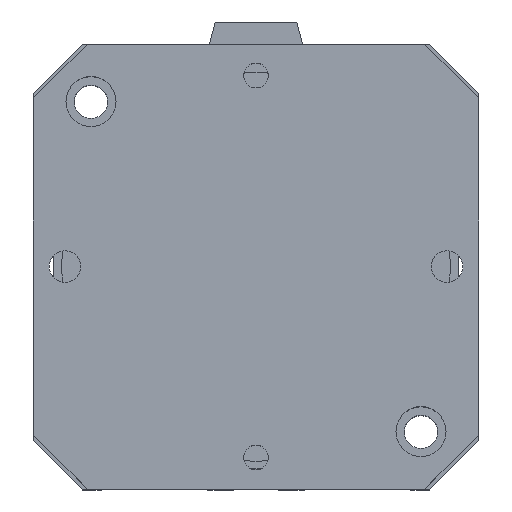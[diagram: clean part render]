
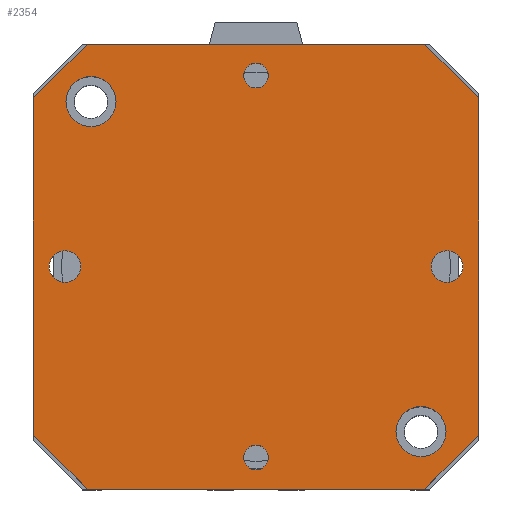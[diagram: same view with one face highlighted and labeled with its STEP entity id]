
A CAD part, top view. The second image highlights one B-rep face of the part: STEP entity #2354.
In plain terms, the highlighted planar face has unit normal (0, 0, 1).
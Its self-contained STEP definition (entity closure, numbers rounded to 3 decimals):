
#221=LINE('',#3869,#429);
#223=LINE('',#3873,#431);
#225=LINE('',#3877,#433);
#227=LINE('',#3881,#435);
#229=LINE('',#3885,#437);
#231=LINE('',#3889,#439);
#233=LINE('',#3893,#441);
#235=LINE('',#3896,#443);
#429=VECTOR('',#3196,91.);
#431=VECTOR('',#3200,20.506);
#433=VECTOR('',#3204,91.);
#435=VECTOR('',#3208,20.506);
#437=VECTOR('',#3212,91.);
#439=VECTOR('',#3216,20.506);
#441=VECTOR('',#3220,91.);
#443=VECTOR('',#3224,20.506);
#537=PLANE('',#2580);
#626=FACE_BOUND('',#956,.T.);
#627=FACE_BOUND('',#957,.T.);
#628=FACE_BOUND('',#958,.T.);
#629=FACE_BOUND('',#959,.T.);
#630=FACE_BOUND('',#960,.T.);
#631=FACE_BOUND('',#961,.T.);
#632=FACE_BOUND('',#962,.T.);
#956=EDGE_LOOP('',(#2134));
#957=EDGE_LOOP('',(#2135));
#958=EDGE_LOOP('',(#2136));
#959=EDGE_LOOP('',(#2137));
#960=EDGE_LOOP('',(#2138));
#961=EDGE_LOOP('',(#2139));
#962=EDGE_LOOP('',(#2140,#2141,#2142,#2143,#2144,#2145,#2146,#2147));
#1035=CIRCLE('',#2536,3.324);
#1037=CIRCLE('',#2539,3.324);
#1042=CIRCLE('',#2547,4.25);
#1046=CIRCLE('',#2554,4.25);
#1055=CIRCLE('',#2569,6.75);
#1056=CIRCLE('',#2571,6.75);
#1235=VERTEX_POINT('',#3787);
#1237=VERTEX_POINT('',#3792);
#1242=VERTEX_POINT('',#3805);
#1246=VERTEX_POINT('',#3816);
#1265=VERTEX_POINT('',#3860);
#1266=VERTEX_POINT('',#3863);
#1267=VERTEX_POINT('',#3866);
#1268=VERTEX_POINT('',#3868);
#1269=VERTEX_POINT('',#3872);
#1270=VERTEX_POINT('',#3876);
#1271=VERTEX_POINT('',#3880);
#1272=VERTEX_POINT('',#3884);
#1273=VERTEX_POINT('',#3888);
#1274=VERTEX_POINT('',#3892);
#1521=EDGE_CURVE('',#1235,#1235,#1035,.T.);
#1523=EDGE_CURVE('',#1237,#1237,#1037,.T.);
#1528=EDGE_CURVE('',#1242,#1242,#1042,.T.);
#1532=EDGE_CURVE('',#1246,#1246,#1046,.T.);
#1551=EDGE_CURVE('',#1265,#1265,#1055,.T.);
#1552=EDGE_CURVE('',#1266,#1266,#1056,.T.);
#1554=EDGE_CURVE('',#1268,#1267,#221,.T.);
#1556=EDGE_CURVE('',#1269,#1268,#223,.T.);
#1558=EDGE_CURVE('',#1270,#1269,#225,.T.);
#1560=EDGE_CURVE('',#1271,#1270,#227,.T.);
#1562=EDGE_CURVE('',#1272,#1271,#229,.T.);
#1564=EDGE_CURVE('',#1273,#1272,#231,.T.);
#1566=EDGE_CURVE('',#1274,#1273,#233,.T.);
#1568=EDGE_CURVE('',#1267,#1274,#235,.T.);
#2134=ORIENTED_EDGE('',*,*,#1521,.T.);
#2135=ORIENTED_EDGE('',*,*,#1523,.T.);
#2136=ORIENTED_EDGE('',*,*,#1528,.T.);
#2137=ORIENTED_EDGE('',*,*,#1532,.T.);
#2138=ORIENTED_EDGE('',*,*,#1551,.T.);
#2139=ORIENTED_EDGE('',*,*,#1552,.T.);
#2140=ORIENTED_EDGE('',*,*,#1568,.T.);
#2141=ORIENTED_EDGE('',*,*,#1566,.T.);
#2142=ORIENTED_EDGE('',*,*,#1564,.T.);
#2143=ORIENTED_EDGE('',*,*,#1562,.T.);
#2144=ORIENTED_EDGE('',*,*,#1560,.T.);
#2145=ORIENTED_EDGE('',*,*,#1558,.T.);
#2146=ORIENTED_EDGE('',*,*,#1556,.T.);
#2147=ORIENTED_EDGE('',*,*,#1554,.T.);
#2354=ADVANCED_FACE('',(#626,#627,#628,#629,#630,#631,#632),#537,.T.);
#2536=AXIS2_PLACEMENT_3D('',#3788,#3111,#3112);
#2539=AXIS2_PLACEMENT_3D('',#3793,#3117,#3118);
#2547=AXIS2_PLACEMENT_3D('',#3806,#3133,#3134);
#2554=AXIS2_PLACEMENT_3D('',#3817,#3147,#3148);
#2569=AXIS2_PLACEMENT_3D('',#3861,#3187,#3188);
#2571=AXIS2_PLACEMENT_3D('',#3864,#3191,#3192);
#2580=AXIS2_PLACEMENT_3D('',#3897,#3225,#3226);
#3111=DIRECTION('center_axis',(0.,0.,-1.));
#3112=DIRECTION('ref_axis',(1.,0.,0.));
#3117=DIRECTION('center_axis',(0.,0.,-1.));
#3118=DIRECTION('ref_axis',(1.,0.,0.));
#3133=DIRECTION('center_axis',(0.,0.,-1.));
#3134=DIRECTION('ref_axis',(1.,0.,0.));
#3147=DIRECTION('center_axis',(0.,0.,-1.));
#3148=DIRECTION('ref_axis',(1.,0.,0.));
#3187=DIRECTION('center_axis',(0.,0.,-1.));
#3188=DIRECTION('ref_axis',(-1.,0.,0.));
#3191=DIRECTION('center_axis',(0.,0.,-1.));
#3192=DIRECTION('ref_axis',(-1.,0.,0.));
#3196=DIRECTION('',(0.,1.,0.));
#3200=DIRECTION('',(0.707,0.707,0.));
#3204=DIRECTION('',(1.,0.,0.));
#3208=DIRECTION('',(0.707,-0.707,0.));
#3212=DIRECTION('',(0.,-1.,0.));
#3216=DIRECTION('',(-0.707,-0.707,0.));
#3220=DIRECTION('',(-1.,0.,0.));
#3224=DIRECTION('',(-0.707,0.707,0.));
#3225=DIRECTION('center_axis',(0.,0.,1.));
#3226=DIRECTION('ref_axis',(1.,0.,0.));
#3787=CARTESIAN_POINT('',(-54.824,0.,110.75));
#3788=CARTESIAN_POINT('Origin',(-51.5,0.,110.75));
#3792=CARTESIAN_POINT('',(48.177,0.,110.75));
#3793=CARTESIAN_POINT('Origin',(51.5,0.,110.75));
#3805=CARTESIAN_POINT('',(-4.25,51.5,110.75));
#3806=CARTESIAN_POINT('Origin',(0.,51.5,110.75));
#3816=CARTESIAN_POINT('',(-4.25,-51.5,110.75));
#3817=CARTESIAN_POINT('Origin',(0.,-51.5,110.75));
#3860=CARTESIAN_POINT('',(-37.75,-44.5,110.75));
#3861=CARTESIAN_POINT('Origin',(-44.5,-44.5,110.75));
#3863=CARTESIAN_POINT('',(51.25,44.5,110.75));
#3864=CARTESIAN_POINT('Origin',(44.5,44.5,110.75));
#3866=CARTESIAN_POINT('',(60.,45.5,110.75));
#3868=CARTESIAN_POINT('',(60.,-45.5,110.75));
#3869=CARTESIAN_POINT('',(60.,45.5,110.75));
#3872=CARTESIAN_POINT('',(45.5,-60.,110.75));
#3873=CARTESIAN_POINT('',(60.,-45.5,110.75));
#3876=CARTESIAN_POINT('',(-45.5,-60.,110.75));
#3877=CARTESIAN_POINT('',(45.5,-60.,110.75));
#3880=CARTESIAN_POINT('',(-60.,-45.5,110.75));
#3881=CARTESIAN_POINT('',(-45.5,-60.,110.75));
#3884=CARTESIAN_POINT('',(-60.,45.5,110.75));
#3885=CARTESIAN_POINT('',(-60.,-45.5,110.75));
#3888=CARTESIAN_POINT('',(-45.5,60.,110.75));
#3889=CARTESIAN_POINT('',(-60.,45.5,110.75));
#3892=CARTESIAN_POINT('',(45.5,60.,110.75));
#3893=CARTESIAN_POINT('',(-45.5,60.,110.75));
#3896=CARTESIAN_POINT('',(45.5,60.,110.75));
#3897=CARTESIAN_POINT('Origin',(0.,0.,110.75));
